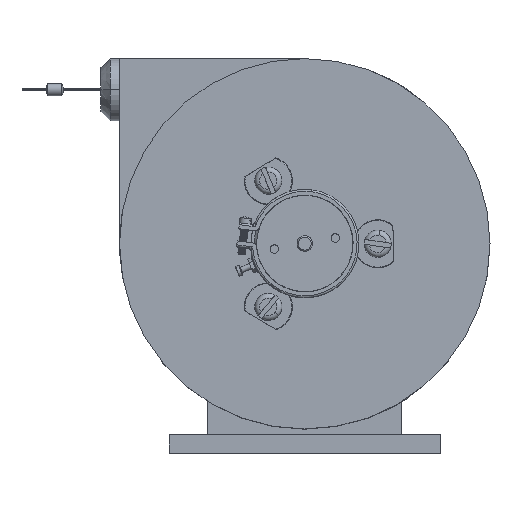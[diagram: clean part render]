
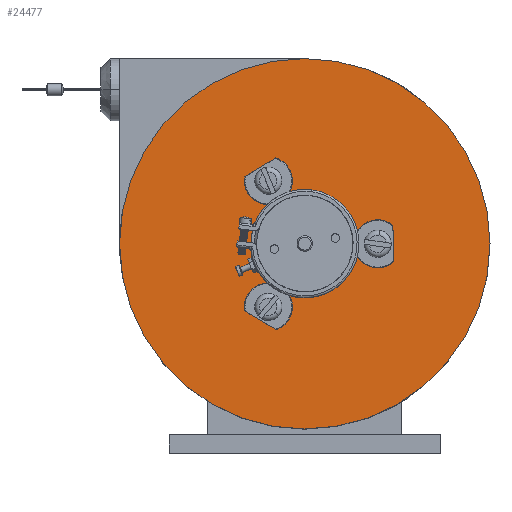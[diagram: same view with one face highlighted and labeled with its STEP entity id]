
A CAD part, top view. The second image highlights one B-rep face of the part: STEP entity #24477.
In plain terms, the highlighted planar face has unit normal (0, 0, 1).
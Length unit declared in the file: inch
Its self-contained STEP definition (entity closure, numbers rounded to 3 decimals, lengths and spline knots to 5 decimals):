
#114 = CARTESIAN_POINT ( 'NONE',  ( 0., 1., 1.07 ) ) ;
#903 = EDGE_CURVE ( 'NONE', #25517, #48766, #40367, .T. ) ;
#1211 = DIRECTION ( 'NONE',  ( 0., 1., 0. ) ) ;
#1569 = ORIENTED_EDGE ( 'NONE', *, *, #18118, .F. ) ;
#1585 = DIRECTION ( 'NONE',  ( 0., 0., -1. ) ) ;
#1936 = EDGE_CURVE ( 'NONE', #14377, #33436, #34554, .T. ) ;
#2074 = CARTESIAN_POINT ( 'NONE',  ( -0.25571, 0.46809, 1.07 ) ) ;
#3194 = CIRCLE ( 'NONE', #56543, 0.0445 ) ;
#3598 = CARTESIAN_POINT ( 'NONE',  ( 0.5885, 1., 1.07 ) ) ;
#4670 = DIRECTION ( 'NONE',  ( 0., -1., 0. ) ) ;
#5007 = CIRCLE ( 'NONE', #7983, 1.495 ) ;
#5092 = ORIENTED_EDGE ( 'NONE', *, *, #24440, .F. ) ;
#6536 = CARTESIAN_POINT ( 'NONE',  ( 0., 1., 1.07 ) ) ;
#6891 = AXIS2_PLACEMENT_3D ( 'NONE', #28503, #1585, #32974 ) ;
#7849 = EDGE_LOOP ( 'NONE', ( #29893, #48751 ) ) ;
#7891 = AXIS2_PLACEMENT_3D ( 'NONE', #3598, #34944, #8089 ) ;
#7983 = AXIS2_PLACEMENT_3D ( 'NONE', #114, #31532, #4670 ) ;
#8015 = VERTEX_POINT ( 'NONE', #14252 ) ;
#8089 = DIRECTION ( 'NONE',  ( 0., 1., 0. ) ) ;
#8392 = CIRCLE ( 'NONE', #9202, 0.375 ) ;
#9202 = AXIS2_PLACEMENT_3D ( 'NONE', #19050, #50388, #23575 ) ;
#9640 = AXIS2_PLACEMENT_3D ( 'NONE', #36916, #10100, #41403 ) ;
#9906 = FACE_OUTER_BOUND ( 'NONE', #12814, .T. ) ;
#10100 = DIRECTION ( 'NONE',  ( 0., 0., 1. ) ) ;
#12801 = ORIENTED_EDGE ( 'NONE', *, *, #49419, .F. ) ;
#12814 = EDGE_LOOP ( 'NONE', ( #17614, #55337 ) ) ;
#14252 = CARTESIAN_POINT ( 'NONE',  ( 0.5885, 1.0445, 1.07 ) ) ;
#14377 = VERTEX_POINT ( 'NONE', #31146 ) ;
#14600 = AXIS2_PLACEMENT_3D ( 'NONE', #52775, #49589, #43241 ) ;
#14863 = CARTESIAN_POINT ( 'NONE',  ( -0.29425, 0.49034, 1.07 ) ) ;
#17614 = ORIENTED_EDGE ( 'NONE', *, *, #57638, .F. ) ;
#17760 = CARTESIAN_POINT ( 'NONE',  ( -0.33279, 0.51259, 1.07 ) ) ;
#17870 = CARTESIAN_POINT ( 'NONE',  ( -0.29425, 1.50966, 1.07 ) ) ;
#18118 = EDGE_CURVE ( 'NONE', #33762, #50430, #51944, .T. ) ;
#19050 = CARTESIAN_POINT ( 'NONE',  ( 0., 1., 1.07 ) ) ;
#19383 = DIRECTION ( 'NONE',  ( 0.866, -0.5, 0. ) ) ;
#20184 = DIRECTION ( 'NONE',  ( 0., 0., 1. ) ) ;
#21835 = FACE_BOUND ( 'NONE', #36814, .T. ) ;
#22379 = DIRECTION ( 'NONE',  ( -0.866, -0.5, 0. ) ) ;
#23260 = FACE_BOUND ( 'NONE', #50703, .T. ) ;
#23575 = DIRECTION ( 'NONE',  ( 0., 1., 0. ) ) ;
#23978 = FACE_BOUND ( 'NONE', #7849, .T. ) ;
#24440 = EDGE_CURVE ( 'NONE', #8015, #26031, #33716, .T. ) ;
#24477 = ADVANCED_FACE ( 'NONE', ( #23978, #23260, #35130, #21835, #9906 ), #45864, .F. ) ;
#24957 = VERTEX_POINT ( 'NONE', #2074 ) ;
#25316 = AXIS2_PLACEMENT_3D ( 'NONE', #14863, #46161, #19383 ) ;
#25517 = VERTEX_POINT ( 'NONE', #30773 ) ;
#26031 = VERTEX_POINT ( 'NONE', #35013 ) ;
#27555 = DIRECTION ( 'NONE',  ( 0., 0., -1. ) ) ;
#28136 = DIRECTION ( 'NONE',  ( 0., 0., 1. ) ) ;
#28357 = EDGE_CURVE ( 'NONE', #33436, #14377, #3194, .T. ) ;
#28503 = CARTESIAN_POINT ( 'NONE',  ( 0., 1., 1.07 ) ) ;
#29893 = ORIENTED_EDGE ( 'NONE', *, *, #51012, .F. ) ;
#30773 = CARTESIAN_POINT ( 'NONE',  ( 0., -0.495, 1.07 ) ) ;
#31146 = CARTESIAN_POINT ( 'NONE',  ( -0.33279, 1.48741, 1.07 ) ) ;
#31218 = EDGE_LOOP ( 'NONE', ( #5092, #47488 ) ) ;
#31532 = DIRECTION ( 'NONE',  ( 0., 0., -1. ) ) ;
#32974 = DIRECTION ( 'NONE',  ( 0., -1., 0. ) ) ;
#33436 = VERTEX_POINT ( 'NONE', #43266 ) ;
#33442 = CARTESIAN_POINT ( 'NONE',  ( 0., 1.375, 1.07 ) ) ;
#33616 = EDGE_CURVE ( 'NONE', #34106, #24957, #53079, .T. ) ;
#33716 = CIRCLE ( 'NONE', #44064, 0.0445 ) ;
#33762 = VERTEX_POINT ( 'NONE', #33442 ) ;
#34106 = VERTEX_POINT ( 'NONE', #17760 ) ;
#34554 = CIRCLE ( 'NONE', #14600, 0.0445 ) ;
#34944 = DIRECTION ( 'NONE',  ( 0., 0., 1. ) ) ;
#35013 = CARTESIAN_POINT ( 'NONE',  ( 0.5885, 0.9555, 1.07 ) ) ;
#35130 = FACE_BOUND ( 'NONE', #31218, .T. ) ;
#35767 = EDGE_CURVE ( 'NONE', #26031, #8015, #52133, .T. ) ;
#36814 = EDGE_LOOP ( 'NONE', ( #1569, #12801 ) ) ;
#36916 = CARTESIAN_POINT ( 'NONE',  ( -0.29425, 0.49034, 1.07 ) ) ;
#40212 = AXIS2_PLACEMENT_3D ( 'NONE', #46958, #20184, #51491 ) ;
#40367 = CIRCLE ( 'NONE', #55077, 1.495 ) ;
#41403 = DIRECTION ( 'NONE',  ( 0.866, -0.5, 0. ) ) ;
#43241 = DIRECTION ( 'NONE',  ( -0.866, -0.5, 0. ) ) ;
#43266 = CARTESIAN_POINT ( 'NONE',  ( -0.25571, 1.53191, 1.07 ) ) ;
#44064 = AXIS2_PLACEMENT_3D ( 'NONE', #54882, #28136, #1211 ) ;
#45864 = PLANE ( 'NONE',  #6891 ) ;
#46161 = DIRECTION ( 'NONE',  ( 0., 0., 1. ) ) ;
#46958 = CARTESIAN_POINT ( 'NONE',  ( 0., 1., 1.07 ) ) ;
#47488 = ORIENTED_EDGE ( 'NONE', *, *, #35767, .F. ) ;
#47885 = CIRCLE ( 'NONE', #9640, 0.0445 ) ;
#48751 = ORIENTED_EDGE ( 'NONE', *, *, #33616, .F. ) ;
#48766 = VERTEX_POINT ( 'NONE', #52757 ) ;
#49162 = DIRECTION ( 'NONE',  ( 0., 0., 1. ) ) ;
#49419 = EDGE_CURVE ( 'NONE', #50430, #33762, #8392, .T. ) ;
#49589 = DIRECTION ( 'NONE',  ( 0., 0., 1. ) ) ;
#50388 = DIRECTION ( 'NONE',  ( 0., 0., 1. ) ) ;
#50430 = VERTEX_POINT ( 'NONE', #50871 ) ;
#50703 = EDGE_LOOP ( 'NONE', ( #55689, #54390 ) ) ;
#50871 = CARTESIAN_POINT ( 'NONE',  ( 0., 0.625, 1.07 ) ) ;
#51012 = EDGE_CURVE ( 'NONE', #24957, #34106, #47885, .T. ) ;
#51491 = DIRECTION ( 'NONE',  ( 0., 1., 0. ) ) ;
#51944 = CIRCLE ( 'NONE', #40212, 0.375 ) ;
#52133 = CIRCLE ( 'NONE', #7891, 0.0445 ) ;
#52757 = CARTESIAN_POINT ( 'NONE',  ( 0., 2.495, 1.07 ) ) ;
#52775 = CARTESIAN_POINT ( 'NONE',  ( -0.29425, 1.50966, 1.07 ) ) ;
#53079 = CIRCLE ( 'NONE', #25316, 0.0445 ) ;
#54390 = ORIENTED_EDGE ( 'NONE', *, *, #28357, .F. ) ;
#54882 = CARTESIAN_POINT ( 'NONE',  ( 0.5885, 1., 1.07 ) ) ;
#55077 = AXIS2_PLACEMENT_3D ( 'NONE', #6536, #27555, #55165 ) ;
#55165 = DIRECTION ( 'NONE',  ( 0., -1., 0. ) ) ;
#55337 = ORIENTED_EDGE ( 'NONE', *, *, #903, .F. ) ;
#55689 = ORIENTED_EDGE ( 'NONE', *, *, #1936, .F. ) ;
#56543 = AXIS2_PLACEMENT_3D ( 'NONE', #17870, #49162, #22379 ) ;
#57638 = EDGE_CURVE ( 'NONE', #48766, #25517, #5007, .T. ) ;
